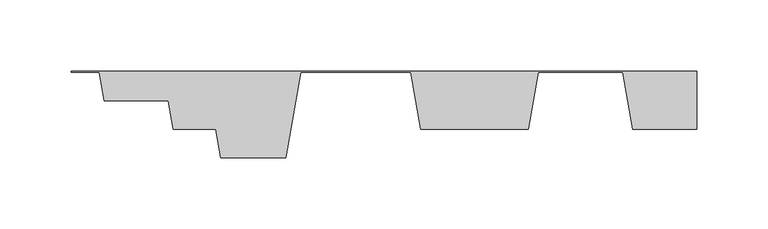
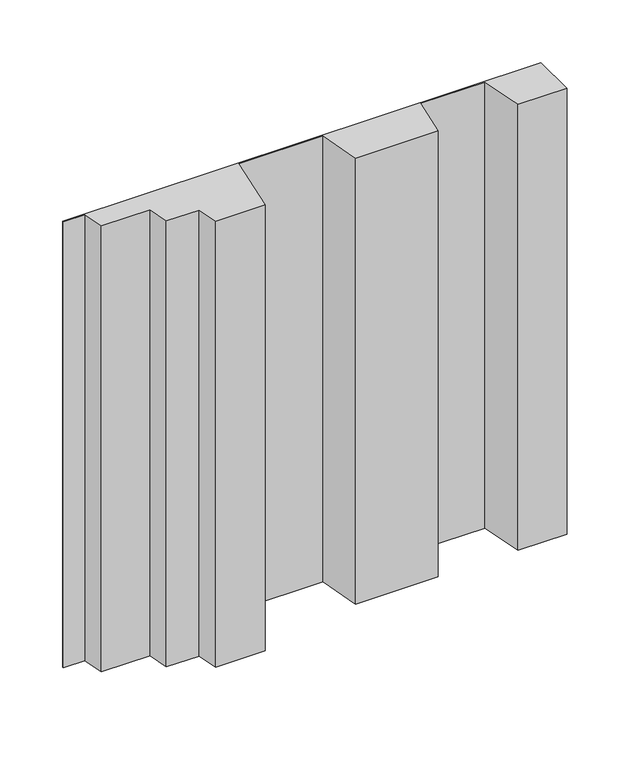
"""IFC4 building model written with IfcOpenShell, lengths in millimetres: plate geometry, ATELIERS 3S_NEW YORK MANHATTAN 780_VERTICAL : AZURO."""

import ifcopenshell
import ifcopenshell.guid

model = None  # the IFC model being written
_history = None  # IfcOwnerHistory: only IFC2X3 demands one
_inside = {}  # id of a spatial element -> (the spatial element, [elements in it])
_under = {}  # id of a project, library or spatial element -> (it, [spatial elements below it])
_declared = {}  # id of a project -> (the project, [libraries it declares])
_typed = {}  # id of a type object -> (the type object, [elements of that type])
_made_of = {}  # id of a material, layer set ... -> (it, [elements and type objects made of it])


def new_model(schema):
    """Start an empty IFC model of exactly this schema.

    Asked for "IFC4X3", IfcOpenShell would pick the latest addendum, in which some entities
    have other attributes; the version numbers below select the first issue.
    IFC2X3 requires an IfcOwnerHistory on every rooted entity: one is made here for all.
    """
    global model, _history
    if schema == "IFC4X3":
        model = ifcopenshell.file(schema_version=(4, 3, 0, 0))
    else:
        model = ifcopenshell.file(schema=schema)
    _inside.clear()
    _under.clear()
    _declared.clear()
    _typed.clear()
    _made_of.clear()
    _history = None
    if model.schema == "IFC2X3":
        org = make("IfcOrganization", Name="unknown")
        user = make(
            "IfcPersonAndOrganization",
            ThePerson=make("IfcPerson", FamilyName="unknown"),
            TheOrganization=org,
        )
        app = make(
            "IfcApplication",
            ApplicationDeveloper=org,
            Version="unknown",
            ApplicationFullName="unknown",
            ApplicationIdentifier="unknown",
        )
        _history = make(
            "IfcOwnerHistory",
            OwningUser=user,
            OwningApplication=app,
            ChangeAction="ADDED",
            CreationDate=0,
        )
    return model


def make(cls, **values):
    """One entity of the class cls with the attributes given. An attribute that is None is left unset."""
    return model.create_entity(
        cls, **{name: value for name, value in values.items() if value is not None}
    )


def rooted(cls, **values):
    """An entity with a GlobalId (a new one), such as an element, a storey or a relation."""
    return make(cls, GlobalId=ifcopenshell.guid.new(), OwnerHistory=_history, **values)


def si_unit(unit_type, name, prefix=None):
    """IfcSIUnit, for example si_unit("LENGTHUNIT", "METRE", prefix="MILLI")."""
    return make("IfcSIUnit", UnitType=unit_type, Prefix=prefix, Name=name)


def assignment(units):
    """IfcUnitAssignment: the units of a project."""
    return None if units is None else make("IfcUnitAssignment", Units=units)


def point(xyz):
    """IfcCartesianPoint."""
    return None if xyz is None else make("IfcCartesianPoint", Coordinates=xyz)


def direction(xyz):
    """IfcDirection."""
    return None if xyz is None else make("IfcDirection", DirectionRatios=xyz)


def frame(location, z_axis=None, x_axis=None):
    """IfcAxis2Placement3D, a coordinate frame: its origin and axes. An axis left out is left unset."""
    return make(
        "IfcAxis2Placement3D",
        Location=point(location),
        Axis=direction(z_axis),
        RefDirection=direction(x_axis),
    )


def origin():
    """The frame at (0, 0, 0) with its axes left unset."""
    return frame((0.0, 0.0, 0.0))


def origin_with_axes():
    """The frame at (0, 0, 0) with the z axis (0, 0, 1) and the x axis (1, 0, 0) written out."""
    return frame((0.0, 0.0, 0.0), z_axis=(0.0, 0.0, 1.0), x_axis=(1.0, 0.0, 0.0))


def place(relative_to, where):
    """IfcLocalPlacement: puts the frame where relative to a parent placement (None: the world)."""
    return make(
        "IfcLocalPlacement", PlacementRelTo=relative_to, RelativePlacement=where
    )


def context(
    kind, dimensions, precision=None, world=None, true_north=None, identifier=None
):
    """IfcGeometricRepresentationContext, for example the 3D "Model" context."""
    return make(
        "IfcGeometricRepresentationContext",
        ContextIdentifier=identifier,
        ContextType=kind,
        CoordinateSpaceDimension=dimensions,
        Precision=precision,
        WorldCoordinateSystem=world,
        TrueNorth=true_north,
    )


def project(units=None, contexts=None):
    """IfcProject with its units and contexts."""
    return rooted(
        "IfcProject",
        Name="project",
        RepresentationContexts=contexts,
        UnitsInContext=assignment(units),
    )


def spatial(cls, under=None, at=None, **own):
    """A site, building, storey or space (cls), placed at a placement, below another one or the project."""
    s = rooted(cls, ObjectPlacement=at, **own)
    if under is not None:
        _under.setdefault(under.id(), (under, []))[1].append(s)
    return s


def polyline(points):
    """IfcPolyline through the points."""
    return make("IfcPolyline", Points=[point(p) for p in points])


def outline(outer, holes=None, kind="AREA"):
    """IfcArbitraryClosedProfileDef: a profile drawn as a closed curve; with holes, ...WithVoids."""
    if holes is None:
        return make("IfcArbitraryClosedProfileDef", ProfileType=kind, OuterCurve=outer)
    return make(
        "IfcArbitraryProfileDefWithVoids",
        ProfileType=kind,
        OuterCurve=outer,
        InnerCurves=holes,
    )


def extrude(swept, where, along, depth):
    """IfcExtrudedAreaSolid: the profile swept, set in the frame where, extruded along a direction by depth."""
    return make(
        "IfcExtrudedAreaSolid",
        SweptArea=swept,
        Position=where,
        ExtrudedDirection=direction(along),
        Depth=depth,
    )


def shape(context_of_items, identifier, shape_type, items):
    """IfcShapeRepresentation: the items that make up one representation, for example the "Body"."""
    return make(
        "IfcShapeRepresentation",
        ContextOfItems=context_of_items,
        RepresentationIdentifier=identifier,
        RepresentationType=shape_type,
        Items=items,
    )


def source(mapping_origin, context_of_items, identifier, shape_type, items):
    """IfcRepresentationMap: a shape defined once, which mapped items show again and again."""
    return make(
        "IfcRepresentationMap",
        MappingOrigin=mapping_origin,
        MappedRepresentation=shape(context_of_items, identifier, shape_type, items),
    )


def transform(
    local_origin,
    x_axis=None,
    y_axis=None,
    z_axis=None,
    scale=None,
    scale2=None,
    scale3=None,
    uniform=True,
):
    """IfcCartesianTransformationOperator3D, or its non-uniform kind. x_axis, y_axis, z_axis: its Axis1, 2, 3."""
    if uniform:
        return make(
            "IfcCartesianTransformationOperator3D",
            Axis1=direction(x_axis),
            Axis2=direction(y_axis),
            LocalOrigin=point(local_origin),
            Scale=scale,
            Axis3=direction(z_axis),
        )
    return make(
        "IfcCartesianTransformationOperator3DnonUniform",
        Axis1=direction(x_axis),
        Axis2=direction(y_axis),
        LocalOrigin=point(local_origin),
        Scale=scale,
        Axis3=direction(z_axis),
        Scale2=scale2,
        Scale3=scale3,
    )


def mapped(mapping_source, mapping_target):
    """IfcMappedItem: shows the shape of a source again, moved by a transform."""
    return make(
        "IfcMappedItem", MappingSource=mapping_source, MappingTarget=mapping_target
    )


def made_of(thing, what):
    """Note that an element or type object is made of a material, layer set ...; save() writes the relation."""
    if what is not None:
        _made_of.setdefault(what.id(), (what, []))[1].append(thing)
    return thing


def element(
    cls,
    number,
    at=None,
    inside=None,
    cuts=None,
    type_object=None,
    material=None,
    context=None,
    identifier="Body",
    shape_type=None,
    held_by="IfcProductDefinitionShape",
    body=None,
    shapes=None,
    **own,
):
    """One element of the class cls, such as IfcWall. Its Tag is "e" and its number.

    at: its placement. inside: the storey or other place that contains it. cuts: it is an
    opening in that element (IfcRelVoidsElement). A single representation is given by context,
    identifier, shape_type and body (its items); several are given by shapes. held_by: the class
    of the entity that holds the representations. save() writes the other relations.
    """
    e = rooted(cls, Tag="e%d" % number, ObjectPlacement=at, **own)
    if body is not None:
        shapes = [shape(context, identifier, shape_type, body)]
    if shapes is not None:
        e.Representation = make(held_by, Representations=shapes)
    if inside is not None:
        _inside.setdefault(inside.id(), (inside, []))[1].append(e)
    if cuts is not None:
        rooted(
            "IfcRelVoidsElement", RelatingBuildingElement=cuts, RelatedOpeningElement=e
        )
    if type_object is not None:
        _typed.setdefault(type_object.id(), (type_object, []))[1].append(e)
    return made_of(e, material)


def aggregate(whole, parts):
    """IfcRelAggregates: a whole, such as a stair, and the parts it consists of."""
    return rooted("IfcRelAggregates", RelatingObject=whole, RelatedObjects=parts)


def save(model, path):
    """Write the relations noted so far, then the file.

    IfcRelAggregates (storeys below a building ...), IfcRelContainedInSpatialStructure (elements
    in a storey), IfcRelDefinesByType, IfcRelAssociatesMaterial and IfcRelDeclares: one each for
    every whole, place, type object, material and project.
    """
    for whole, parts in _under.values():
        aggregate(whole, parts)
    for where, things in _inside.values():
        rooted(
            "IfcRelContainedInSpatialStructure",
            RelatedElements=things,
            RelatingStructure=where,
        )
    for kind, things in _typed.values():
        rooted("IfcRelDefinesByType", RelatedObjects=things, RelatingType=kind)
    for what, things in _made_of.values():
        rooted("IfcRelAssociatesMaterial", RelatedObjects=things, RelatingMaterial=what)
    for by, libraries in _declared.values():
        rooted("IfcRelDeclares", RelatingContext=by, RelatedDefinitions=libraries)
    model.write(path)


def plate_616c0f77(model_context):
    return source(origin(), model_context, "Body", "SweptSolid", [
        extrude(outline(polyline([(-200.3146622, -0.864757), (-219.9999998, -0.864757), (-219.9999998, 0.0), (219.9999998, 0.0), (219.9999998, -40.864757), (175.0038132, -40.864757), (167.9507339, -0.864757), (108.5800587, -0.864757), (101.5269794, -40.864757), (25.8976547, -40.864757), (18.8445755, -0.864757), (-58.5260998, -0.864757), (-69.1057186, -60.864757), (-114.7350434, -60.864757), (-118.261583, -40.864757), (-148.261583, -40.864757), (-151.7881226, -20.864757), (-196.7881226, -20.864757), (-200.3146622, -0.864757)])), origin_with_axes(), (0.0, 0.0, 1.0), 433.4619218),
    ])


if __name__ == "__main__":
    model = new_model("IFC4")
    model_context = context("Model", 3, world=origin())
    ifc_project = project(units=[si_unit("LENGTHUNIT", "METRE", prefix="MILLI")], contexts=[model_context])
    site = spatial("IfcSite", under=ifc_project)
    building = spatial("IfcBuilding", under=site)
    placement = place(None, origin())
    plate_shape = plate_616c0f77(model_context)
    element("IfcPlate", 1, ObjectType="ATELIERS 3S_NEW YORK MANHATTAN 780_VERTICAL : AZURO", at=placement, inside=building, context=model_context, shape_type="MappedRepresentation", body=[
        mapped(plate_shape, transform((0.0, 0.0, 0.0), x_axis=(1.0, 0.0, 0.0), y_axis=(0.0, 1.0, 0.0), z_axis=(0.0, 0.0, 1.0))),
    ])
    save(model, "model.ifc")
